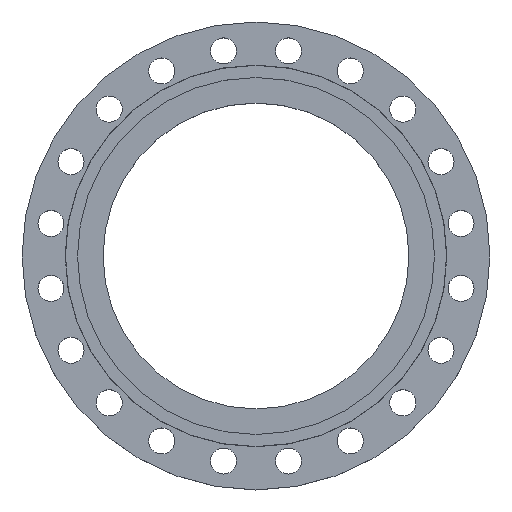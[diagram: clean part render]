
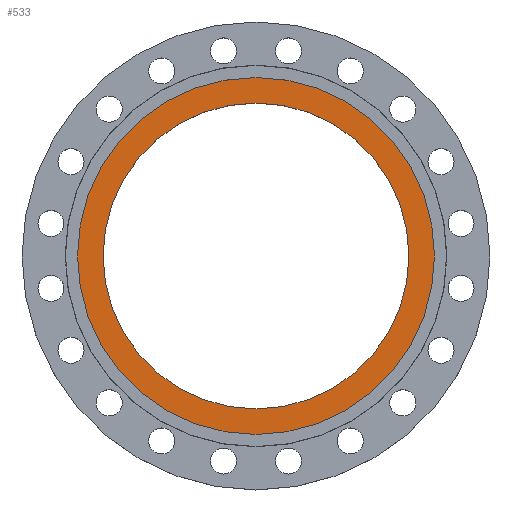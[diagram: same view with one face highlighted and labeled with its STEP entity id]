
A CAD part, top view. The second image highlights one B-rep face of the part: STEP entity #533.
In plain terms, the highlighted planar face has unit normal (0, 0, 1).
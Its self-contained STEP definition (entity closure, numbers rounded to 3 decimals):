
#64 = PLANE ( 'NONE',  #1173 ) ;
#175 = ORIENTED_EDGE ( 'NONE', *, *, #1457, .F. ) ;
#202 = EDGE_CURVE ( 'NONE', #1598, #725, #1009, .T. ) ;
#217 = EDGE_LOOP ( 'NONE', ( #458, #175 ) ) ;
#247 = CARTESIAN_POINT ( 'NONE',  ( 0., 0., -5. ) ) ;
#257 = EDGE_LOOP ( 'NONE', ( #686, #399 ) ) ;
#295 = DIRECTION ( 'NONE',  ( -1., 0., 0. ) ) ;
#312 = VERTEX_POINT ( 'NONE', #1537 ) ;
#396 = CARTESIAN_POINT ( 'NONE',  ( 0., 0., -5. ) ) ;
#399 = ORIENTED_EDGE ( 'NONE', *, *, #1652, .F. ) ;
#458 = ORIENTED_EDGE ( 'NONE', *, *, #1352, .F. ) ;
#485 = DIRECTION ( 'NONE',  ( 0., 0., 1. ) ) ;
#533 = ADVANCED_FACE ( 'NONE', ( #823, #1455 ), #64, .T. ) ;
#591 = CARTESIAN_POINT ( 'NONE',  ( -288., 0., -5. ) ) ;
#618 = CARTESIAN_POINT ( 'NONE',  ( 288., 0., -5. ) ) ;
#639 = VERTEX_POINT ( 'NONE', #709 ) ;
#668 = CARTESIAN_POINT ( 'NONE',  ( 288., 0., -5. ) ) ;
#686 = ORIENTED_EDGE ( 'NONE', *, *, #202, .F. ) ;
#709 = CARTESIAN_POINT ( 'NONE',  ( -246.752, 0., -5. ) ) ;
#725 = VERTEX_POINT ( 'NONE', #618 ) ;
#823 = FACE_BOUND ( 'NONE', #217, .T. ) ;
#856 = DIRECTION ( 'NONE',  ( 0., 0., 1. ) ) ;
#1009 = CIRCLE ( 'NONE', #1014, 288. ) ;
#1014 = AXIS2_PLACEMENT_3D ( 'NONE', #396, #1032, #1658 ) ;
#1032 = DIRECTION ( 'NONE',  ( 0., 0., -1. ) ) ;
#1083 = CARTESIAN_POINT ( 'NONE',  ( 0., 0., -5. ) ) ;
#1124 = DIRECTION ( 'NONE',  ( 1., 0., 0. ) ) ;
#1173 = AXIS2_PLACEMENT_3D ( 'NONE', #668, #1315, #1918 ) ;
#1315 = DIRECTION ( 'NONE',  ( 0., 0., 1. ) ) ;
#1352 = EDGE_CURVE ( 'NONE', #312, #639, #1487, .T. ) ;
#1455 = FACE_OUTER_BOUND ( 'NONE', #257, .T. ) ;
#1457 = EDGE_CURVE ( 'NONE', #639, #312, #1563, .T. ) ;
#1485 = DIRECTION ( 'NONE',  ( 1., 0., 0. ) ) ;
#1487 = CIRCLE ( 'NONE', #1494, 246.752 ) ;
#1494 = AXIS2_PLACEMENT_3D ( 'NONE', #1886, #485, #1124 ) ;
#1537 = CARTESIAN_POINT ( 'NONE',  ( 246.752, 0., -5. ) ) ;
#1563 = CIRCLE ( 'NONE', #1564, 246.752 ) ;
#1564 = AXIS2_PLACEMENT_3D ( 'NONE', #247, #856, #1485 ) ;
#1598 = VERTEX_POINT ( 'NONE', #591 ) ;
#1652 = EDGE_CURVE ( 'NONE', #725, #1598, #1760, .T. ) ;
#1658 = DIRECTION ( 'NONE',  ( -1., 0., 0. ) ) ;
#1713 = DIRECTION ( 'NONE',  ( 0., 0., -1. ) ) ;
#1760 = CIRCLE ( 'NONE', #1768, 288. ) ;
#1768 = AXIS2_PLACEMENT_3D ( 'NONE', #1083, #1713, #295 ) ;
#1886 = CARTESIAN_POINT ( 'NONE',  ( 0., 0., -5. ) ) ;
#1918 = DIRECTION ( 'NONE',  ( 1., 0., 0. ) ) ;
